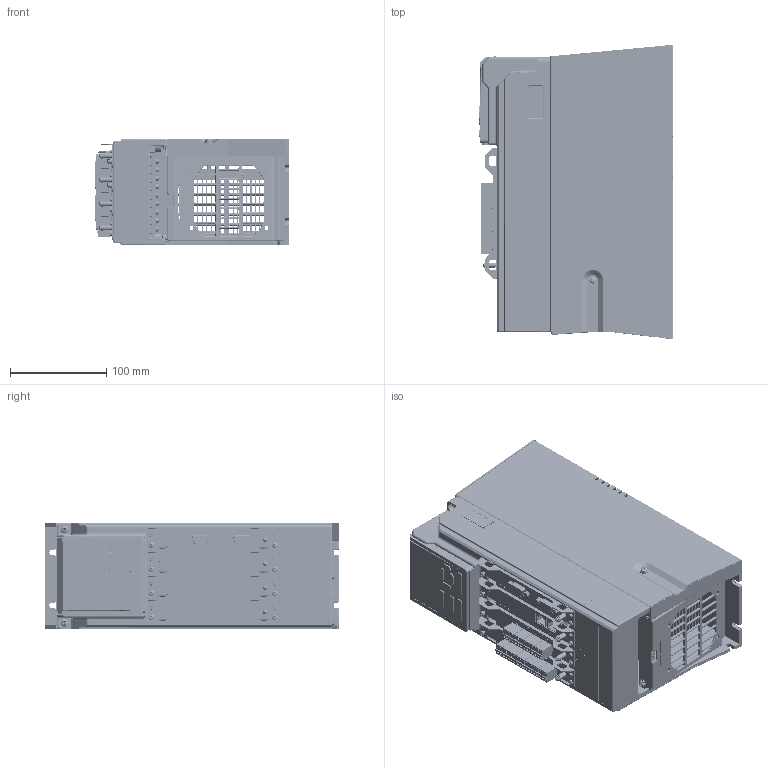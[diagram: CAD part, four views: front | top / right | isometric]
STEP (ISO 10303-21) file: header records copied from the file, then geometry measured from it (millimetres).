
FILE_DESCRIPTION((''),'2;1');
FILE_NAME('VH6-47P5-B','2021-11-15T13:26:06',('PC'),(''),'CREO PARAMETRIC BY PTC INC, 2019010','CREO PARAMETRIC BY PTC INC, 2019010','');
FILE_SCHEMA(('CONFIG_CONTROL_DESIGN'));
Products named in the file (1): VH6-47P5-B
Bounding box: 202.52 x 305 x 110.89 mm (x, y, z)
Surface area: 698872.6 mm2 (no closed solid volume)
Topology: 0 solids, 9894 shells, 9894 faces, 55204 edges, 55162 vertices
Faces by surface type: plane 3423, extrusion 3104, cylinder 2028, bspline 810, torus 331, cone 122, sphere 76
Entity records: 613819 total; most frequent: CARTESIAN_POINT 235913, DIRECTION 58285, VERTEX_POINT 55158, ORIENTED_EDGE 55158, EDGE_CURVE 55158, VECTOR 31927, LINE 28823, B_SPLINE_CURVE_WITH_KNOTS 22240
